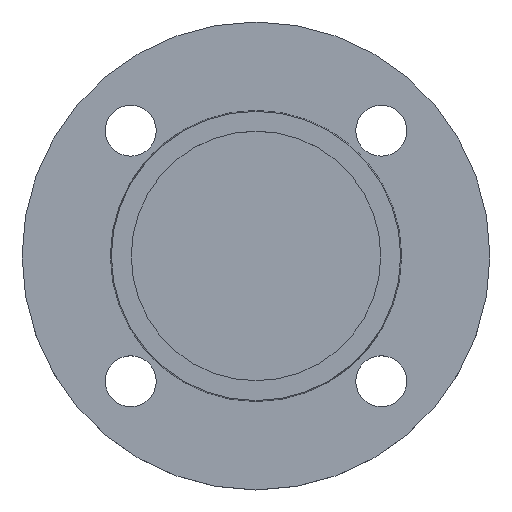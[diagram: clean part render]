
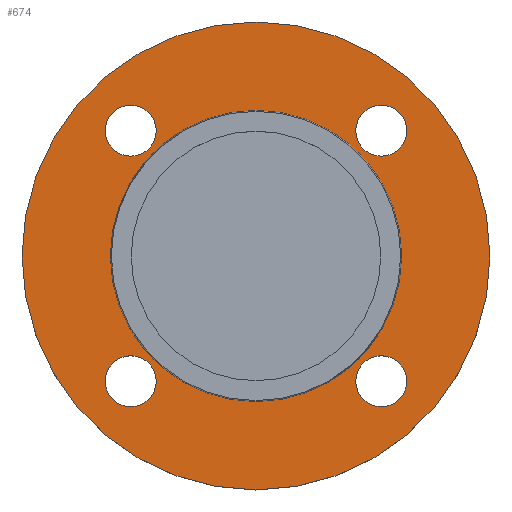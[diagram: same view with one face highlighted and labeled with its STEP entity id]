
A CAD part, top view. The second image highlights one B-rep face of the part: STEP entity #674.
In plain terms, the highlighted planar face has unit normal (0, 0, 1).
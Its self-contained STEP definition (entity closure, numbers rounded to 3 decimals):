
#2 = DIRECTION ( 'NONE',  ( 0., 0., -1. ) ) ;
#3 = CARTESIAN_POINT ( 'NONE',  ( -44.194, 44.194, -2. ) ) ;
#5 = ORIENTED_EDGE ( 'NONE', *, *, #494, .T. ) ;
#7 = ORIENTED_EDGE ( 'NONE', *, *, #371, .T. ) ;
#10 = ORIENTED_EDGE ( 'NONE', *, *, #621, .T. ) ;
#11 = AXIS2_PLACEMENT_3D ( 'NONE', #76, #108, #75 ) ;
#26 = CARTESIAN_POINT ( 'NONE',  ( 44.194, 44.194, -2. ) ) ;
#27 = AXIS2_PLACEMENT_3D ( 'NONE', #189, #190, #191 ) ;
#60 = DIRECTION ( 'NONE',  ( -1., 0., 0. ) ) ;
#61 = DIRECTION ( 'NONE',  ( 0., 0., -1. ) ) ;
#62 = CARTESIAN_POINT ( 'NONE',  ( 0., 0., -2. ) ) ;
#63 = DIRECTION ( 'NONE',  ( 1., 0., 0. ) ) ;
#64 = DIRECTION ( 'NONE',  ( 0., 0., -1. ) ) ;
#66 = CARTESIAN_POINT ( 'NONE',  ( -44.194, -44.194, -2. ) ) ;
#67 = AXIS2_PLACEMENT_3D ( 'NONE', #26, #131, #149 ) ;
#69 = DIRECTION ( 'NONE',  ( 1., 0., 0. ) ) ;
#70 = DIRECTION ( 'NONE',  ( 1., 0., 0. ) ) ;
#71 = DIRECTION ( 'NONE',  ( 0., 0., 1. ) ) ;
#72 = CARTESIAN_POINT ( 'NONE',  ( 51.353, 0., -2. ) ) ;
#73 = PLANE ( 'NONE',  #475 ) ;
#75 = DIRECTION ( 'NONE',  ( -1., 0., 0. ) ) ;
#76 = CARTESIAN_POINT ( 'NONE',  ( 0., 0., -2. ) ) ;
#83 = CIRCLE ( 'NONE', #27, 9. ) ;
#100 = DIRECTION ( 'NONE',  ( 0., 0., -1. ) ) ;
#106 = AXIS2_PLACEMENT_3D ( 'NONE', #154, #155, #156 ) ;
#108 = DIRECTION ( 'NONE',  ( 0., 0., -1. ) ) ;
#112 = DIRECTION ( 'NONE',  ( -1., 0., 0. ) ) ;
#123 = DIRECTION ( 'NONE',  ( 1., 0., 0. ) ) ;
#124 = DIRECTION ( 'NONE',  ( 0., 0., -1. ) ) ;
#125 = CARTESIAN_POINT ( 'NONE',  ( 44.194, -44.194, -2. ) ) ;
#127 = FACE_BOUND ( 'NONE', #522, .T. ) ;
#131 = DIRECTION ( 'NONE',  ( 0., 0., -1. ) ) ;
#132 = FACE_BOUND ( 'NONE', #327, .T. ) ;
#133 = FACE_BOUND ( 'NONE', #301, .T. ) ;
#137 = CARTESIAN_POINT ( 'NONE',  ( 0., 0., -2. ) ) ;
#142 = AXIS2_PLACEMENT_3D ( 'NONE', #650, #651, #652 ) ;
#144 = AXIS2_PLACEMENT_3D ( 'NONE', #137, #100, #112 ) ;
#146 = CIRCLE ( 'NONE', #67, 9. ) ;
#149 = DIRECTION ( 'NONE',  ( 1., 0., 0. ) ) ;
#154 = CARTESIAN_POINT ( 'NONE',  ( 44.194, -44.194, -2. ) ) ;
#155 = DIRECTION ( 'NONE',  ( 0., 0., -1. ) ) ;
#156 = DIRECTION ( 'NONE',  ( 1., 0., 0. ) ) ;
#170 = CIRCLE ( 'NONE', #283, 9. ) ;
#172 = CIRCLE ( 'NONE', #106, 9. ) ;
#175 = CARTESIAN_POINT ( 'NONE',  ( -51.353, 0., -2. ) ) ;
#186 = CARTESIAN_POINT ( 'NONE',  ( 53.194, 44.194, -2. ) ) ;
#189 = CARTESIAN_POINT ( 'NONE',  ( 44.194, 44.194, -2. ) ) ;
#190 = DIRECTION ( 'NONE',  ( 0., 0., -1. ) ) ;
#191 = DIRECTION ( 'NONE',  ( 1., 0., 0. ) ) ;
#192 = CARTESIAN_POINT ( 'NONE',  ( -35.194, 44.194, -2. ) ) ;
#193 = CIRCLE ( 'NONE', #508, 9. ) ;
#201 = CARTESIAN_POINT ( 'NONE',  ( 35.194, -44.194, -2. ) ) ;
#217 = CARTESIAN_POINT ( 'NONE',  ( 82.5, 0., -2. ) ) ;
#218 = CARTESIAN_POINT ( 'NONE',  ( 51.353, 0., -2. ) ) ;
#234 = EDGE_CURVE ( 'NONE', #372, #496, #609, .T. ) ;
#238 = CIRCLE ( 'NONE', #593, 82.5 ) ;
#252 = FACE_OUTER_BOUND ( 'NONE', #467, .T. ) ;
#254 = FACE_BOUND ( 'NONE', #374, .T. ) ;
#267 = FACE_BOUND ( 'NONE', #290, .T. ) ;
#277 = CIRCLE ( 'NONE', #506, 9. ) ;
#280 = EDGE_CURVE ( 'NONE', #295, #308, #409, .T. ) ;
#283 = AXIS2_PLACEMENT_3D ( 'NONE', #66, #64, #63 ) ;
#290 = EDGE_LOOP ( 'NONE', ( #7, #10 ) ) ;
#295 = VERTEX_POINT ( 'NONE', #670 ) ;
#301 = EDGE_LOOP ( 'NONE', ( #383, #384 ) ) ;
#302 = VERTEX_POINT ( 'NONE', #677 ) ;
#304 = VERTEX_POINT ( 'NONE', #679 ) ;
#308 = VERTEX_POINT ( 'NONE', #680 ) ;
#327 = EDGE_LOOP ( 'NONE', ( #385, #386 ) ) ;
#341 = AXIS2_PLACEMENT_3D ( 'NONE', #719, #720, #721 ) ;
#361 = VERTEX_POINT ( 'NONE', #717 ) ;
#371 = EDGE_CURVE ( 'NONE', #479, #517, #429, .T. ) ;
#372 = VERTEX_POINT ( 'NONE', #722 ) ;
#374 = EDGE_LOOP ( 'NONE', ( #388, #5 ) ) ;
#379 = ORIENTED_EDGE ( 'NONE', *, *, #447, .T. ) ;
#380 = ORIENTED_EDGE ( 'NONE', *, *, #664, .T. ) ;
#382 = EDGE_CURVE ( 'NONE', #496, #372, #193, .T. ) ;
#383 = ORIENTED_EDGE ( 'NONE', *, *, #683, .T. ) ;
#384 = ORIENTED_EDGE ( 'NONE', *, *, #280, .T. ) ;
#385 = ORIENTED_EDGE ( 'NONE', *, *, #382, .T. ) ;
#386 = ORIENTED_EDGE ( 'NONE', *, *, #234, .T. ) ;
#388 = ORIENTED_EDGE ( 'NONE', *, *, #420, .T. ) ;
#390 = ORIENTED_EDGE ( 'NONE', *, *, #689, .F. ) ;
#391 = ORIENTED_EDGE ( 'NONE', *, *, #648, .F. ) ;
#409 = CIRCLE ( 'NONE', #142, 9. ) ;
#420 = EDGE_CURVE ( 'NONE', #490, #361, #146, .T. ) ;
#429 = CIRCLE ( 'NONE', #341, 51.353 ) ;
#447 = EDGE_CURVE ( 'NONE', #304, #501, #172, .T. ) ;
#467 = EDGE_LOOP ( 'NONE', ( #390, #391 ) ) ;
#474 = CIRCLE ( 'NONE', #11, 82.5 ) ;
#475 = AXIS2_PLACEMENT_3D ( 'NONE', #72, #71, #70 ) ;
#479 = VERTEX_POINT ( 'NONE', #175 ) ;
#490 = VERTEX_POINT ( 'NONE', #186 ) ;
#494 = EDGE_CURVE ( 'NONE', #361, #490, #83, .T. ) ;
#496 = VERTEX_POINT ( 'NONE', #192 ) ;
#501 = VERTEX_POINT ( 'NONE', #201 ) ;
#506 = AXIS2_PLACEMENT_3D ( 'NONE', #125, #124, #123 ) ;
#508 = AXIS2_PLACEMENT_3D ( 'NONE', #3, #2, #69 ) ;
#514 = VERTEX_POINT ( 'NONE', #217 ) ;
#517 = VERTEX_POINT ( 'NONE', #218 ) ;
#522 = EDGE_LOOP ( 'NONE', ( #379, #380 ) ) ;
#593 = AXIS2_PLACEMENT_3D ( 'NONE', #62, #61, #60 ) ;
#608 = CARTESIAN_POINT ( 'NONE',  ( -44.194, 44.194, -2. ) ) ;
#609 = CIRCLE ( 'NONE', #709, 9. ) ;
#610 = DIRECTION ( 'NONE',  ( 0., 0., -1. ) ) ;
#611 = DIRECTION ( 'NONE',  ( 1., 0., 0. ) ) ;
#621 = EDGE_CURVE ( 'NONE', #517, #479, #714, .T. ) ;
#648 = EDGE_CURVE ( 'NONE', #302, #514, #474, .T. ) ;
#650 = CARTESIAN_POINT ( 'NONE',  ( -44.194, -44.194, -2. ) ) ;
#651 = DIRECTION ( 'NONE',  ( 0., 0., -1. ) ) ;
#652 = DIRECTION ( 'NONE',  ( 1., 0., 0. ) ) ;
#664 = EDGE_CURVE ( 'NONE', #501, #304, #277, .T. ) ;
#670 = CARTESIAN_POINT ( 'NONE',  ( -53.194, -44.194, -2. ) ) ;
#674 = ADVANCED_FACE ( 'NONE', ( #127, #133, #132, #254, #267, #252 ), #73, .T. ) ;
#677 = CARTESIAN_POINT ( 'NONE',  ( -82.5, 0., -2. ) ) ;
#679 = CARTESIAN_POINT ( 'NONE',  ( 53.194, -44.194, -2. ) ) ;
#680 = CARTESIAN_POINT ( 'NONE',  ( -35.194, -44.194, -2. ) ) ;
#683 = EDGE_CURVE ( 'NONE', #308, #295, #170, .T. ) ;
#689 = EDGE_CURVE ( 'NONE', #514, #302, #238, .T. ) ;
#709 = AXIS2_PLACEMENT_3D ( 'NONE', #608, #610, #611 ) ;
#714 = CIRCLE ( 'NONE', #144, 51.353 ) ;
#717 = CARTESIAN_POINT ( 'NONE',  ( 35.194, 44.194, -2. ) ) ;
#719 = CARTESIAN_POINT ( 'NONE',  ( 0., 0., -2. ) ) ;
#720 = DIRECTION ( 'NONE',  ( 0., 0., -1. ) ) ;
#721 = DIRECTION ( 'NONE',  ( -1., 0., 0. ) ) ;
#722 = CARTESIAN_POINT ( 'NONE',  ( -53.194, 44.194, -2. ) ) ;
